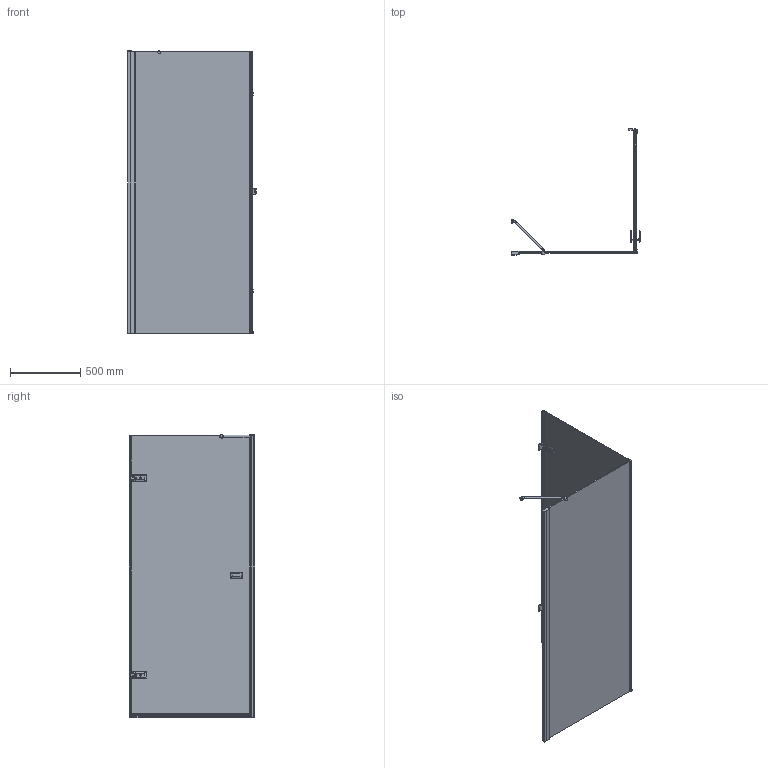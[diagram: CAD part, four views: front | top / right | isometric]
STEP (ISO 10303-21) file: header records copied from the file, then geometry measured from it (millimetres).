
FILE_DESCRIPTION(/* description */ (''),/* implementation_level */ '2;1');
FILE_NAME(/* name */ 'E:\Работа\Сергей\Душевые кабинки\! Работа\TREND SQUARE GK-862PTWO\TREND SQUARE GK-862PTWO правая модель\TREND SQUARE GK-862PTWO ПРАВАЯ-3D.stp',/* time_stamp */ '2017-08-13T18:24:05+03:00',/* author */ ('PC'),/* organization */ (''),/* preprocessor_version */ 'ST-DEVELOPER v15.2',/* originating_system */ 'Autodesk Inventor 2014',/* authorisation */ '');
FILE_SCHEMA (('AUTOMOTIVE_DESIGN { 1 0 10303 214 3 1 1 }'));
Length unit declared in the file: millimetre
Products named in the file (1): TREND SQUARE GK-862PTWO ПРАВАЯ-
3D
Bounding box: 912.74 x 893.8 x 2009.49 mm (x, y, z)
Volume: 26871571 mm3; surface area: 7573425.9 mm2
Topology: 7 solids, 7 shells, 909 faces, 2415 edges, 1474 vertices
Faces by surface type: plane 573, cylinder 248, bspline 56, torus 27, sphere 5
Full cylindrical faces by diameter (mm): 12 x2, 15 x1, 20 x2, 26 x1
Entity records: 30795 total; most frequent: CARTESIAN_POINT 7460, ORIENTED_EDGE 4752, DIRECTION 4556, EDGE_CURVE 2376, LINE 1678, VECTOR 1678, VERTEX_POINT 1472, AXIS2_PLACEMENT_3D 1439
